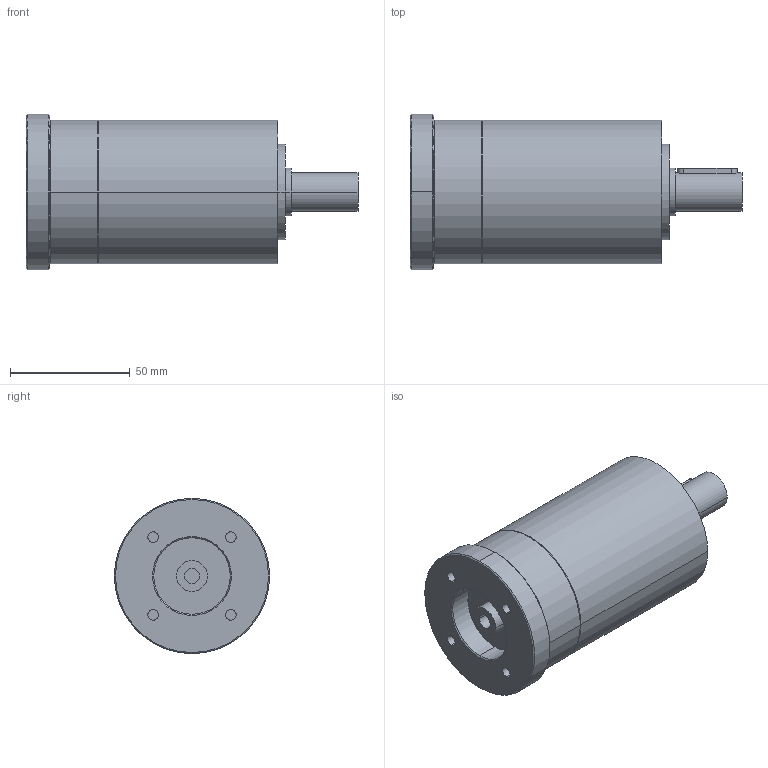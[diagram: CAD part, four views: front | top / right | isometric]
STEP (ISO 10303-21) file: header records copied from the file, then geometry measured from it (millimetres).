
FILE_DESCRIPTION(('CoCreate Modeling STEP Export'),'2;1');
FILE_NAME('GPR75_ig-9-12-16-20-24-30-36_16_B14_6.35_P12.stp','2014-08-25T16:04:00',(''),(''),'CoCreate Modeling STEP processor for AP214 (Solid Model)','CoCreate Modeling 16.00C 25-Feb-2009 (C) Parametric Technology GmbH','');
FILE_SCHEMA(('AUTOMOTIVE_DESIGN { 1 0 10303 214 1 1 1 1 }'));
Length unit declared in the file: millimetre
Products named in the file (2): GPR75_ig-9-12-16-20-24-30-36_16_B14_6.35_P12
Assembly tree (1 placements, depth 2):
  GPR75_ig-9-12-16-20-24-30-36_16_B14_6.35_P12
    GPR75_ig-9-12-16-20-24-30-36_16_B14_6.35_P12
Bounding box: 138.9 x 65 x 65 mm (x, y, z)
Volume: 303861.9 mm3; surface area: 31840.6 mm2
Topology: 1 solids, 1 shells, 73 faces, 188 edges, 132 vertices
Faces by surface type: cylinder 38, plane 21, cone 14
Entity records: 1866 total; most frequent: ORIENTED_EDGE 372, CARTESIAN_POINT 344, DIRECTION 238, EDGE_CURVE 186, VERTEX_POINT 132, AXIS2_PLACEMENT_3D 90, EDGE_LOOP 90, FACE_OUTER_BOUND 73
